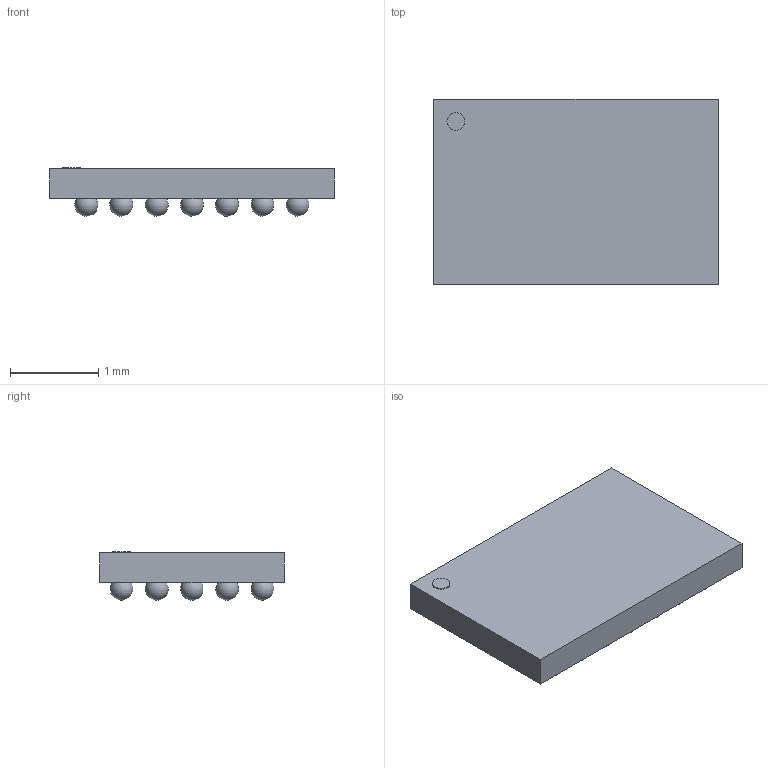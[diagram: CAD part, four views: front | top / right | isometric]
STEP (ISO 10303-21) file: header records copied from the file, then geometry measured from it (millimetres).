
FILE_DESCRIPTION(('FreeCAD Model'),'2;1');
FILE_NAME('X:/projects/aleboindustries/cat_guts\WLCSP-35_Package.step', '2020-04-07T23:29:16',('kicad StepUp'),('ksu MCAD'), 'Open CASCADE STEP processor 7.3','FreeCAD','Unknown');
FILE_SCHEMA(('AUTOMOTIVE_DESIGN { 1 0 10303 214 1 1 1 1 }'));
Length unit declared in the file: millimetre
Products named in the file (1): WLCSP-35_Package
Bounding box: 3.23 x 2.1 x 0.55 mm (x, y, z)
Volume: 2.6 mm3; surface area: 21.6 mm2
Topology: 1 solids, 1 shells, 43 faces, 120 edges, 80 vertices
Faces by surface type: sphere 35, plane 7, cylinder 1
Full cylindrical faces by diameter (mm): 0.2 x1
Entity records: 2671 total; most frequent: DIRECTION 415, CARTESIAN_POINT 379, ORIENTED_EDGE 170, PCURVE 170, DEFINITIONAL_REPRESENTATION 170, LINE 146, VECTOR 146, AXIS2_PLACEMENT_3D 116
